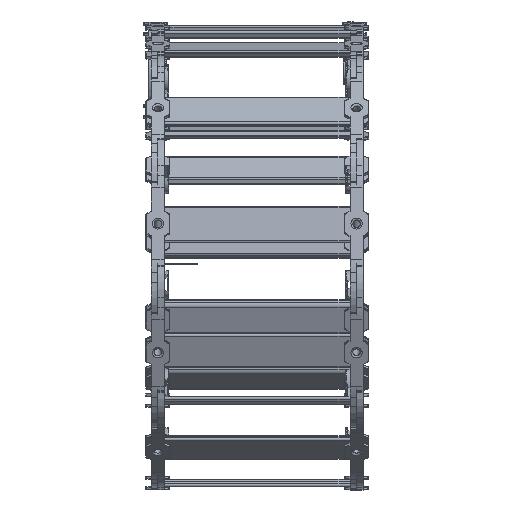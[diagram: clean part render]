
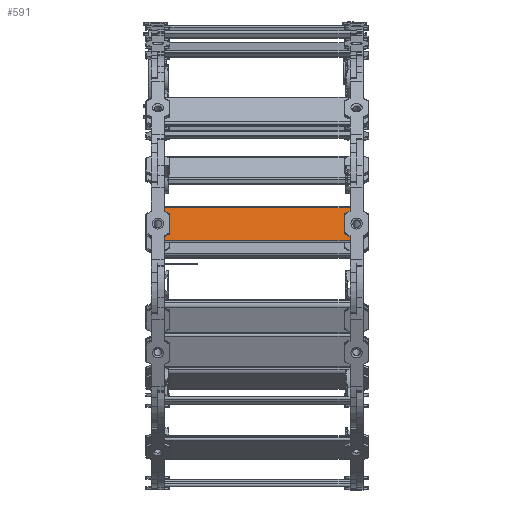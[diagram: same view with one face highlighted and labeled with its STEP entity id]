
A CAD part, front view. The second image highlights one B-rep face of the part: STEP entity #591.
In plain terms, the highlighted planar face has unit normal (0, -0.984, 0.178) as drawn and (0, 0, -1) by its records, which use the part's own axes.
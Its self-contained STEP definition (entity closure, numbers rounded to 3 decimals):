
#433=CARTESIAN_POINT('',(214.,75.459,-48.5));
#434=VERTEX_POINT('',#433);
#442=CARTESIAN_POINT('',(14.,75.459,-48.5));
#443=VERTEX_POINT('',#442);
#444=CARTESIAN_POINT('',(14.,75.459,-48.5));
#445=DIRECTION('',(1.0,0.0,0.0));
#446=VECTOR('',#445,200.0);
#447=LINE('',#444,#446);
#448=EDGE_CURVE('',#443,#434,#447,.T.);
#461=CARTESIAN_POINT('',(14.,54.499,-48.5));
#462=DIRECTION('',(0.,0.,-1.0));
#463=DIRECTION('',(-1.0,0.0,0.0));
#464=AXIS2_PLACEMENT_3D('',#461,#462,#463);
#465=PLANE('',#464);
#466=CARTESIAN_POINT('',(14.,70.887,-48.5));
#467=VERTEX_POINT('',#466);
#468=CARTESIAN_POINT('',(18.75,68.144,-48.5));
#469=VERTEX_POINT('',#468);
#470=CARTESIAN_POINT('',(14.,70.887,-48.5));
#471=DIRECTION('',(0.866,-0.5,0.));
#472=VECTOR('',#471,5.485);
#473=LINE('',#470,#472);
#474=EDGE_CURVE('',#467,#469,#473,.T.);
#475=ORIENTED_EDGE('',*,*,#474,.F.);
#476=CARTESIAN_POINT('',(14.,75.459,-48.5));
#477=DIRECTION('',(0.0,-1.0,0.0));
#478=VECTOR('',#477,4.572);
#479=LINE('',#476,#478);
#480=EDGE_CURVE('',#443,#467,#479,.T.);
#481=ORIENTED_EDGE('',*,*,#480,.F.);
#482=ORIENTED_EDGE('',*,*,#448,.T.);
#483=CARTESIAN_POINT('',(214.,70.887,-48.5));
#484=VERTEX_POINT('',#483);
#485=CARTESIAN_POINT('',(214.,70.887,-48.5));
#486=DIRECTION('',(0.,1.0,0.));
#487=VECTOR('',#486,4.572);
#488=LINE('',#485,#487);
#489=EDGE_CURVE('',#484,#434,#488,.T.);
#490=ORIENTED_EDGE('',*,*,#489,.F.);
#491=CARTESIAN_POINT('',(209.25,68.144,-48.5));
#492=VERTEX_POINT('',#491);
#493=CARTESIAN_POINT('',(209.25,68.144,-48.5));
#494=DIRECTION('',(0.866,0.5,0.));
#495=VECTOR('',#494,5.485);
#496=LINE('',#493,#495);
#497=EDGE_CURVE('',#492,#484,#496,.T.);
#498=ORIENTED_EDGE('',*,*,#497,.F.);
#499=CARTESIAN_POINT('',(208.5,66.845,-48.5));
#500=VERTEX_POINT('',#499);
#501=CARTESIAN_POINT('',(210.,66.845,-48.5));
#502=DIRECTION('',(0.,0.,-1.));
#503=DIRECTION('',(-0.866,0.5,0.));
#504=AXIS2_PLACEMENT_3D('',#501,#502,#503);
#505=CIRCLE('',#504,1.5);
#506=EDGE_CURVE('',#500,#492,#505,.T.);
#507=ORIENTED_EDGE('',*,*,#506,.F.);
#508=CARTESIAN_POINT('',(208.5,48.155,-48.5));
#509=VERTEX_POINT('',#508);
#510=CARTESIAN_POINT('',(208.5,48.155,-48.5));
#511=DIRECTION('',(0.0,1.0,0.));
#512=VECTOR('',#511,18.691);
#513=LINE('',#510,#512);
#514=EDGE_CURVE('',#509,#500,#513,.T.);
#515=ORIENTED_EDGE('',*,*,#514,.F.);
#516=CARTESIAN_POINT('',(209.25,46.856,-48.5));
#517=VERTEX_POINT('',#516);
#518=CARTESIAN_POINT('',(210.,48.155,-48.5));
#519=DIRECTION('',(0.,0.,-1.));
#520=DIRECTION('',(-0.866,-0.5,0.));
#521=AXIS2_PLACEMENT_3D('',#518,#519,#520);
#522=CIRCLE('',#521,1.5);
#523=EDGE_CURVE('',#517,#509,#522,.T.);
#524=ORIENTED_EDGE('',*,*,#523,.F.);
#525=CARTESIAN_POINT('',(214.,44.113,-48.5));
#526=VERTEX_POINT('',#525);
#527=CARTESIAN_POINT('',(214.,44.113,-48.5));
#528=DIRECTION('',(-0.866,0.5,0.));
#529=VECTOR('',#528,5.485);
#530=LINE('',#527,#529);
#531=EDGE_CURVE('',#526,#517,#530,.T.);
#532=ORIENTED_EDGE('',*,*,#531,.F.);
#533=CARTESIAN_POINT('',(214.,39.541,-48.5));
#534=VERTEX_POINT('',#533);
#535=CARTESIAN_POINT('',(214.,39.541,-48.5));
#536=DIRECTION('',(0.,1.0,0.));
#537=VECTOR('',#536,4.572);
#538=LINE('',#535,#537);
#539=EDGE_CURVE('',#534,#526,#538,.T.);
#540=ORIENTED_EDGE('',*,*,#539,.F.);
#541=CARTESIAN_POINT('',(14.,39.541,-48.5));
#542=VERTEX_POINT('',#541);
#543=CARTESIAN_POINT('',(14.,39.541,-48.5));
#544=DIRECTION('',(1.0,0.0,0.0));
#545=VECTOR('',#544,200.0);
#546=LINE('',#543,#545);
#547=EDGE_CURVE('',#542,#534,#546,.T.);
#548=ORIENTED_EDGE('',*,*,#547,.F.);
#549=CARTESIAN_POINT('',(14.,44.113,-48.5));
#550=VERTEX_POINT('',#549);
#551=CARTESIAN_POINT('',(14.,44.113,-48.5));
#552=DIRECTION('',(0.,-1.0,0.));
#553=VECTOR('',#552,4.572);
#554=LINE('',#551,#553);
#555=EDGE_CURVE('',#550,#542,#554,.T.);
#556=ORIENTED_EDGE('',*,*,#555,.F.);
#557=CARTESIAN_POINT('',(18.75,46.856,-48.5));
#558=VERTEX_POINT('',#557);
#559=CARTESIAN_POINT('',(18.75,46.856,-48.5));
#560=DIRECTION('',(-0.866,-0.5,0.));
#561=VECTOR('',#560,5.485);
#562=LINE('',#559,#561);
#563=EDGE_CURVE('',#558,#550,#562,.T.);
#564=ORIENTED_EDGE('',*,*,#563,.F.);
#565=CARTESIAN_POINT('',(19.5,48.155,-48.5));
#566=VERTEX_POINT('',#565);
#567=CARTESIAN_POINT('',(18.,48.155,-48.5));
#568=DIRECTION('',(0.,0.,-1.0));
#569=DIRECTION('',(0.866,-0.5,0.));
#570=AXIS2_PLACEMENT_3D('',#567,#568,#569);
#571=CIRCLE('',#570,1.5);
#572=EDGE_CURVE('',#566,#558,#571,.T.);
#573=ORIENTED_EDGE('',*,*,#572,.F.);
#574=CARTESIAN_POINT('',(19.5,66.845,-48.5));
#575=VERTEX_POINT('',#574);
#576=CARTESIAN_POINT('',(19.5,66.845,-48.5));
#577=DIRECTION('',(0.,-1.0,0.));
#578=VECTOR('',#577,18.691);
#579=LINE('',#576,#578);
#580=EDGE_CURVE('',#575,#566,#579,.T.);
#581=ORIENTED_EDGE('',*,*,#580,.F.);
#582=CARTESIAN_POINT('',(18.,66.845,-48.5));
#583=DIRECTION('',(0.,0.,-1.0));
#584=DIRECTION('',(0.866,0.5,0.));
#585=AXIS2_PLACEMENT_3D('',#582,#583,#584);
#586=CIRCLE('',#585,1.5);
#587=EDGE_CURVE('',#469,#575,#586,.T.);
#588=ORIENTED_EDGE('',*,*,#587,.F.);
#589=EDGE_LOOP('',(#475,#481,#482,#490,#498,#507,#515,#524,#532,#540,#548,#556,#564,#573,#581,#588));
#590=FACE_OUTER_BOUND('',#589,.T.);
#591=ADVANCED_FACE('',(#590),#465,.T.);
